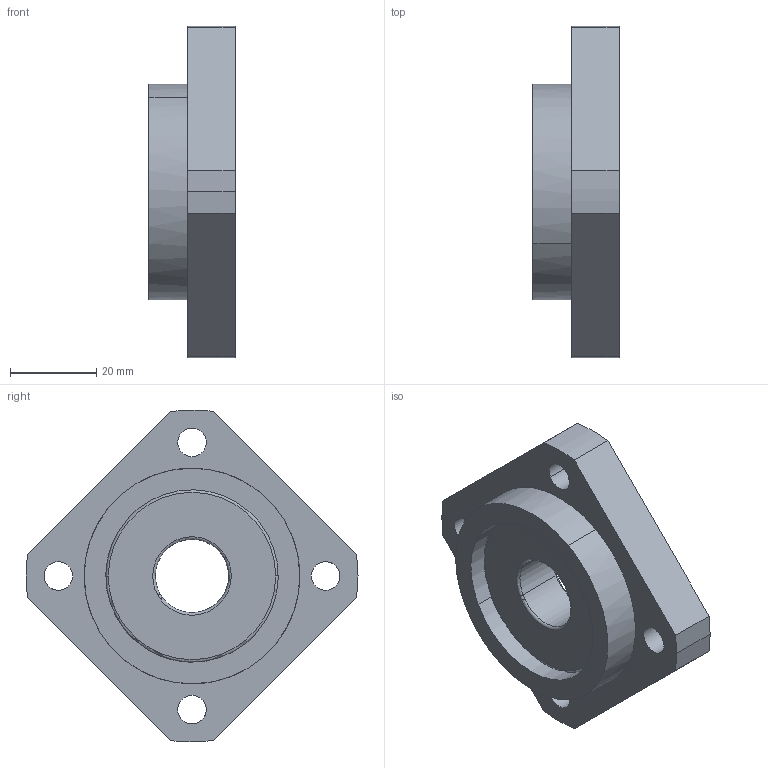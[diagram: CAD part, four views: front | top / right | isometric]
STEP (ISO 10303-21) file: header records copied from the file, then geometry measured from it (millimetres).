
FILE_DESCRIPTION(('CATIA V5 STEP Exchange'),'2;1');
FILE_NAME('D:\서포트 완성도면\FF\FF17.stp','2014-02-03T10:45:49+00:00',('none'),('none'),'CATIA Version 5 Release 18 GA (IN-10)','CATIA V5 STEP AP203','none');
FILE_SCHEMA(('CONFIG_CONTROL_DESIGN'));
Length unit declared in the file: millimetre
Products named in the file (1): FF17
Assembly tree (2 placements, depth 2):
  FF17
    #56
    #1652
Bounding box: 20 x 77 x 76.99 mm (x, y, z)
Volume: 41846.3 mm3; surface area: 16267.3 mm2
Topology: 2 solids, 2 shells, 55 faces, 130 edges, 84 vertices
Faces by surface type: cylinder 30, plane 13, torus 12
Entity records: 2259 total; most frequent: CARTESIAN_POINT 1011, ORIENTED_EDGE 260, DIRECTION 184, EDGE_CURVE 130, AXIS2_PLACEMENT_3D 90, VERTEX_POINT 84, EDGE_LOOP 72, ADVANCED_FACE 55
